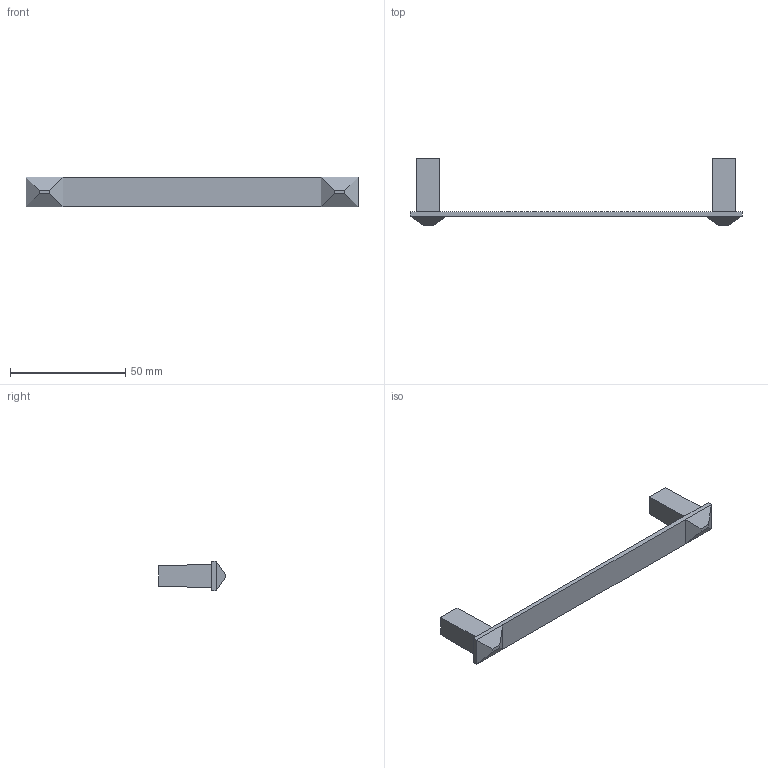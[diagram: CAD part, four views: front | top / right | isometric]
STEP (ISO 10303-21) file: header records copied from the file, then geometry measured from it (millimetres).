
FILE_DESCRIPTION( ( '' ), '1' );
FILE_NAME( 'D:/1.AUTOCAD EXPORT/Group 10/sheet_10_1/115273.stp', '2013-10-18T10:25:54', ( '' ), ( '' ), ' ', ' ', ' ' );
FILE_SCHEMA( ( 'automotive_design' ) );
Length unit declared in the file: millimetre
Products named in the file (1): 1
Bounding box: 144 x 29 x 13 mm (x, y, z)
Volume: 8486.6 mm3; surface area: 6486.2 mm2
Topology: 1 solids, 1 shells, 32 faces, 70 edges, 44 vertices
Faces by surface type: plane 28, cylinder 4
Entity records: 1708 total; most frequent: STYLED_ITEM 147, PRESENTATION_STYLE_ASSIGNMENT 147, CARTESIAN_POINT 147, COLOUR_RGB 147, DIRECTION 144, ORIENTED_EDGE 140, EDGE_CURVE 70, CURVE_STYLE 70
